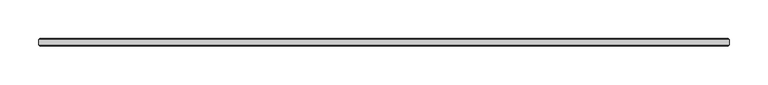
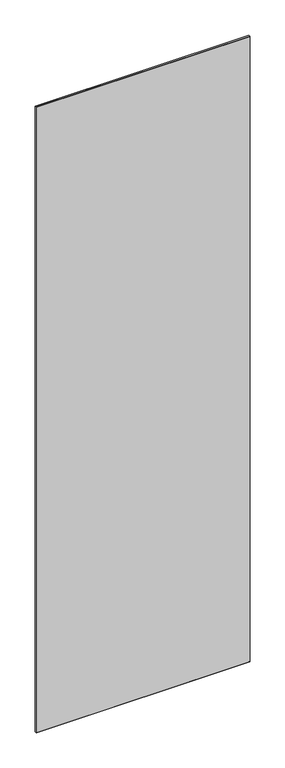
"""IFC4 building model written with IfcOpenShell, lengths in millimetres: plate geometry, 11-AMG-1-Панель одинарный витраж 10-12 : Центр Толщина 10mm."""

from ifc_helpers import new_model, si_unit, origin, place, context, project, spatial, faceted_brep, source, transform, mapped, element, save


def plate_9d82dc80(model_context):
    return source(origin(), model_context, "Body", "Brep", [
        faceted_brep([(448.5, -3.4961653, 2777.0), (448.5, 3.4961653, 2777.0), (-448.5, 3.4961653, 2777.0), (-448.5, -3.4961653, 2777.0), (448.5, 3.4961653, 5.0), (448.5, -3.4961653, 5.0), (-448.5, -3.4961653, 5.0), (-448.5, 3.4961653, 5.0), (-446.9961653, 5.0, 2775.4961653), (446.9961653, 5.0, 2775.4961653), (446.9961653, 5.0, 6.4960578), (-446.9961653, 5.0, 6.4960578), (446.9961653, -5.0, 2775.4961653), (-446.9961653, -5.0, 2775.4961653), (-446.9961653, -5.0, 6.5038347), (446.9961653, -5.0, 6.5038347)], [[[0, 1, 2, 3]], [[4, 5, 6, 7]], [[8, 9, 10, 11]], [[3, 2, 7, 6]], [[12, 13, 14, 15]], [[1, 0, 5, 4]], [[1, 4, 10, 9]], [[5, 0, 12, 15]], [[7, 2, 8, 11]], [[3, 6, 14, 13]], [[0, 3, 13, 12]], [[2, 1, 9, 8]], [[6, 5, 15, 14]], [[4, 7, 11, 10]]]),
    ])


if __name__ == "__main__":
    model = new_model("IFC4")
    model_context = context("Model", 3, world=origin())
    ifc_project = project(units=[si_unit("LENGTHUNIT", "METRE", prefix="MILLI")], contexts=[model_context])
    site = spatial("IfcSite", under=ifc_project)
    building = spatial("IfcBuilding", under=site)
    placement = place(None, origin())
    plate_shape = plate_9d82dc80(model_context)
    element("IfcPlate", 1, ObjectType="11-AMG-1-Панель одинарный витраж 10-12 : Центр Толщина 10mm", at=placement, inside=building, context=model_context, shape_type="MappedRepresentation", body=[
        mapped(plate_shape, transform((0.0, 0.0, 0.0), x_axis=(1.0, 0.0, 0.0), y_axis=(0.0, 1.0, 0.0), z_axis=(0.0, 0.0, 1.0))),
    ])
    save(model, "model.ifc")
